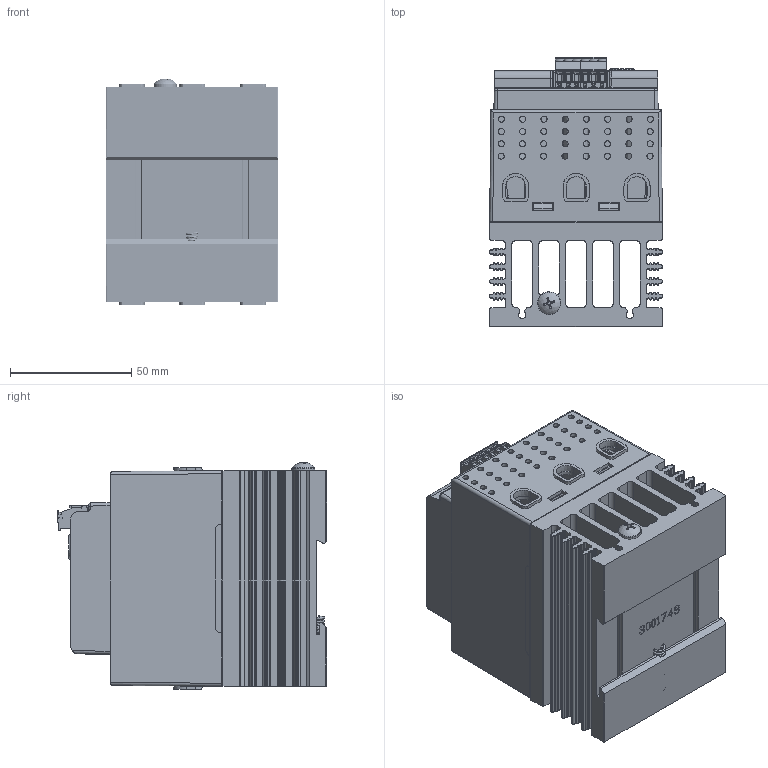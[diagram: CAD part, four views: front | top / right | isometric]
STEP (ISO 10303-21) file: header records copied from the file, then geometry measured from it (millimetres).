
FILE_DESCRIPTION(/* description */ (''),/* implementation_level */ '2;1');
FILE_NAME(/* name */ '3-phase Analog 16A.stp',/* time_stamp */ '2024-11-15T09:02:49-06:00',/* author */ ('ErikG'),/* organization */ (''),/* preprocessor_version */ 'ST-DEVELOPER v20',/* originating_system */ 'Autodesk Inventor 2025',/* authorisation */ '');
FILE_SCHEMA (('AUTOMOTIVE_DESIGN { 1 0 10303 214 3 1 1 }'));
Products named in the file (22): 3001632e; 1001590e; P3; TC0203620000G; P2; usb-c31-s-vt-cs4-bk-pp-t-r-model ADAMTECH; P1; fci 6 pin header OQ06120000J0G; fci 6 pin headerOQ06120000J0G half 1; fci 5 pin header OQ05120000J0G half 2; fci 6 pin connector TS06110B00J0G; fci 5 pin connector TS05110B00J0G LEFT HALF; fci 5 pin connector TS05110B00J0G RIGHT HALF; 3001767; 3001760; 3001759; 3001766; 3001765b; 3001748; spring; 0060783-0610-010.ipt; 0060702-1032-0375
Assembly tree (22 placements, depth 6):
  3001632e
    1001590e
      P3
        TC0203620000G
      P2
        usb-c31-s-vt-cs4-bk-pp-t-r-model ADAMTECH
      P1
        fci 6 pin header OQ06120000J0G
          fci 6 pin headerOQ06120000J0G half 1
          fci 5 pin header OQ05120000J0G half 2
          fci 6 pin connector TS06110B00J0G
            fci 5 pin connector TS05110B00J0G LEFT HALF
            fci 5 pin connector TS05110B00J0G RIGHT HALF
    3001767
    3001760  x2
    3001759
    3001766
    3001765b
    3001748
    spring
    0060783-0610-010.ipt
    0060702-1032-0375
Bounding box: 71.12 x 110.89 x 93.49 mm (x, y, z)
Volume: 223962.4 mm3; surface area: 203847.2 mm2
Topology: 17 solids, 107 shells, 5870 faces, 16230 edges, 10686 vertices
Faces by surface type: plane 4334, cylinder 1070, cone 321, bspline 75, torus 67, sphere 3
Full cylindrical faces by diameter (mm): 0.254 x1, 0.45 x2, 0.55 x2, 0.65 x2, 1 x6, 1.75 x2, 2.15 x12, 2.3 x12, 2.54 x2, 2.642 x6, 2.7 x2, 2.8 x4, 2.95 x6, 3.277 x4, 3.6 x2, 4.826 x1, 4.917 x1, 6 x1, 6.172 x1, 7.976 x1, 9.474 x1
Entity records: 209856 total; most frequent: CARTESIAN_POINT 58895, ORIENTED_EDGE 32190, DIRECTION 29928, EDGE_CURVE 16095, LINE 12108, VECTOR 12108, VERTEX_POINT 10604, AXIS2_PLACEMENT_3D 8910
